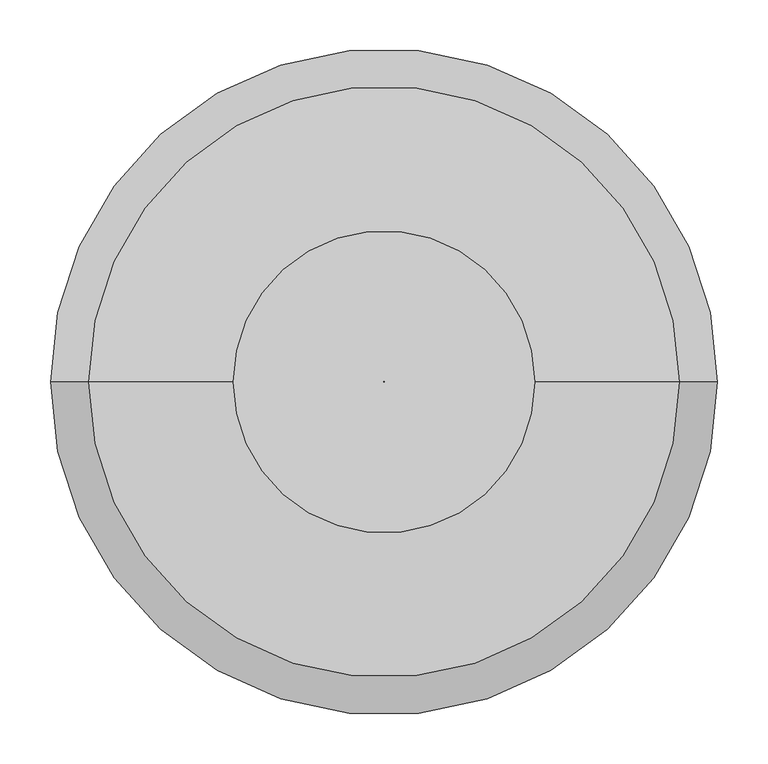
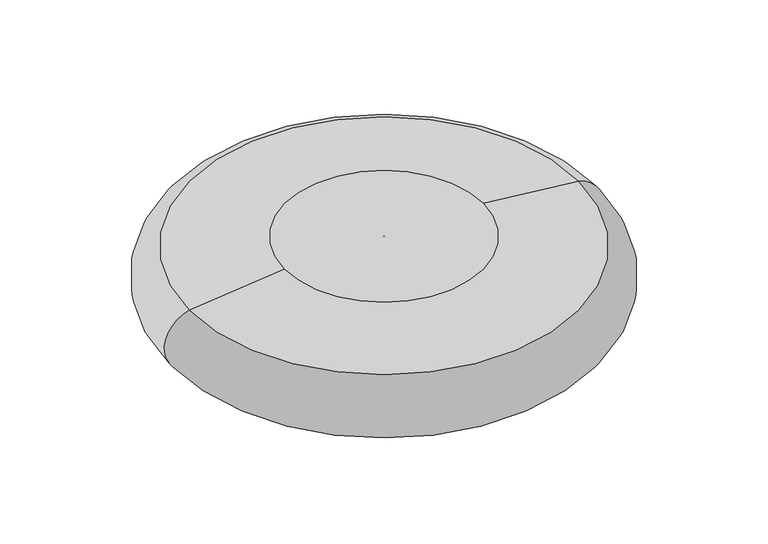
"""IFC4 building model written with IfcOpenShell, lengths in millimetres: proxy geometry, COJIN1 : COJIN."""

from ifc_helpers import new_model, si_unit, point, frame, origin, place, context, project, spatial, polyline, circle_curve, ellipse_curve, trimmed, source, transform, mapped, element, save
from ifc_brep_helpers import plane_surface, revolved_surface, advanced_brep


def generic_models_4ebe4863(model_context):
    return source(origin(), model_context, "Body", "AdvancedBrep", [
        advanced_brep(
        [(13265.6665548, 5487.9849332, -501.6165305), (12680.4319034, 5487.9849332, -501.6165305), (12693.0744108, 5487.9849332, -599.9918032), (13253.0240474, 5487.9849332, -599.9918032), (13122.5765821, 5487.9849332, -486.7804137), (12823.5218761, 5487.9849332, -486.7804137), (12973.3664418, 5487.9849332, -599.9918032), (12972.7320165, 5487.9849332, -599.9918032), (12972.7320165, 5487.9849332, -486.7804137), (12973.3664418, 5487.9849332, -486.7804137)],
        [
            (0, 1, circle_curve(frame((12973.0492291, 5487.9849332, -501.6165305), z_axis=(0.0, 0.0, -1.0), x_axis=(-1.0, 0.0, 0.0)), 292.6173257)),
            (1, 2, circle_curve(frame((12693.0744108, 5487.9849332, -549.9918032), z_axis=(0.0, -1.0, 0.0), x_axis=(1.0, 0.0, 0.0)), 50.0)),
            (2, 3, circle_curve(frame((12973.0492291, 5487.9849332, -599.9918032), z_axis=(0.0, 0.0, 1.0), x_axis=(-1.0, 0.0, 0.0)), 279.9748183)),
            (3, 0, circle_curve(frame((13253.0240474, 5487.9849332, -549.9918032), z_axis=(0.0, -1.0, 0.0), x_axis=(-1.0, 0.0, 0.0)), 50.0)),
            (4, 5, circle_curve(frame((12973.0492291, 5487.9849332, -486.7804137), z_axis=(0.0, 0.0, -1.0), x_axis=(-1.0, 0.0, 0.0)), 149.527353)),
            (5, 1),
            (0, 4),
            (6, 7, circle_curve(frame((12973.0492291, 5487.9849332, -599.9918032), z_axis=(0.0, 0.0, -1.0), x_axis=(-1.0, 0.0, 0.0)), 0.3172127)),
            (7, 8),
            (8, 9, circle_curve(frame((12973.0492291, 5487.9849332, -486.7804137), z_axis=(0.0, 0.0, 1.0), x_axis=(-1.0, 0.0, 0.0)), 0.3172127)),
            (9, 6),
            (1, 0, circle_curve(frame((12973.0492291, 5487.9849332, -501.6165305), z_axis=(0.0, 0.0, -1.0), x_axis=(1.0, 0.0, 0.0)), 292.6173257)),
            (3, 2, circle_curve(frame((12973.0492291, 5487.9849332, -599.9918032), z_axis=(0.0, 0.0, 1.0), x_axis=(1.0, 0.0, 0.0)), 279.9748183)),
            (5, 4, circle_curve(frame((12973.0492291, 5487.9849332, -486.7804137), z_axis=(0.0, 0.0, -1.0), x_axis=(1.0, 0.0, 0.0)), 149.527353)),
            (8, 9, circle_curve(frame((12973.0492291, 5487.9849332, -486.7804137), z_axis=(0.0, 0.0, -1.0), x_axis=(1.0, 0.0, 0.0)), 0.3172127)),
            (7, 6, circle_curve(frame((12973.0492291, 5487.9849332, -599.9918032), z_axis=(0.0, 0.0, -1.0), x_axis=(1.0, 0.0, 0.0)), 0.3172127)),
        ],
        [
            revolved_surface(trimmed(ellipse_curve(frame((12693.0744108, 5487.9849332, -549.9918032), z_axis=(0.0, 1.0, 0.0), x_axis=(1.0, 0.0, 0.0)), 50.0, 50.0), [point((12693.0744108, 5487.9849332, -599.9918032))], [point((12680.4319034, 5487.9849332, -501.6165305))], True, "CARTESIAN"), (12973.0492291, 5487.9849332, 0.0), (0.0, 0.0, 1.0)),
            revolved_surface(polyline([(12680.4319034, 5487.9849332, -501.6165305), (12823.5218761, 5487.9849332, -486.7804137)]), (12973.0492291, 5487.9849332, 0.0), (0.0, 0.0, 1.0)),
            revolved_surface(polyline([(12972.7320164, 5487.9849332, -486.7804137), (12972.7320164, 5487.9849332, -599.9918032)]), (12973.0492291, 5487.9849332, 0.0), (0.0, 0.0, 1.0)),
            revolved_surface(trimmed(ellipse_curve(frame((13253.0240474, 5487.9849332, -549.9918032), z_axis=(0.0, -1.0, 0.0), x_axis=(-1.0, 0.0, 0.0)), 50.0, 50.0), [point((13253.0240474, 5487.9849332, -599.9918032))], [point((13265.6665548, 5487.9849332, -501.6165305))], True, "CARTESIAN"), (12973.0492291, 5487.9849332, 0.0), (0.0, 0.0, 1.0)),
            revolved_surface(polyline([(13265.6665548, 5487.9849332, -501.6165305), (13122.5765821, 5487.9849332, -486.7804137)]), (12973.0492291, 5487.9849332, 0.0), (0.0, 0.0, 1.0)),
            plane_surface(frame((12973.0492291, 5487.9849332, -486.7804137), z_axis=(0.0, 0.0, 1.0), x_axis=(1.0, 0.0, 0.0))),
            revolved_surface(polyline([(12973.366441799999, 5487.9849332, -486.7804137), (12973.366441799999, 5487.9849332, -599.9918032)]), (12973.0492291, 5487.9849332, 0.0), (0.0, 0.0, 1.0)),
            plane_surface(frame((12973.0492291, 5487.9849332, -599.9918032), z_axis=(0.0, 0.0, -1.0), x_axis=(1.0, 0.0, 0.0))),
        ],
        [
            (0, [[1, 2, 3, 4]]),
            (1, [[5, 6, -1, 7]]),
            (2, [[8, 9, 10, 11]]),
            (3, [[12, -4, 13, -2]]),
            (4, [[14, -7, -12, -6]]),
            (5, [[-14, -5], [15, -10]]),
            (6, [[16, -11, -15, -9]]),
            (7, [[-13, -3], [-16, -8]]),
        ],
    ),
    ])


if __name__ == "__main__":
    model = new_model("IFC4")
    model_context = context("Model", 3, world=origin())
    ifc_project = project(units=[si_unit("LENGTHUNIT", "METRE", prefix="MILLI")], contexts=[model_context])
    site = spatial("IfcSite", under=ifc_project)
    building = spatial("IfcBuilding", under=site)
    placement = place(None, origin())
    generic_models_shape = generic_models_4ebe4863(model_context)
    element("IfcBuildingElementProxy", 1, Name="COJIN1 : COJIN", ObjectType="COJIN1 : COJIN", at=placement, inside=building, context=model_context, shape_type="MappedRepresentation", body=[
        mapped(generic_models_shape, transform((0.0, 0.0, 0.0), x_axis=(1.0, 0.0, 0.0), y_axis=(0.0, 1.0, 0.0), z_axis=(0.0, 0.0, 1.0))),
    ])
    save(model, "model.ifc")
